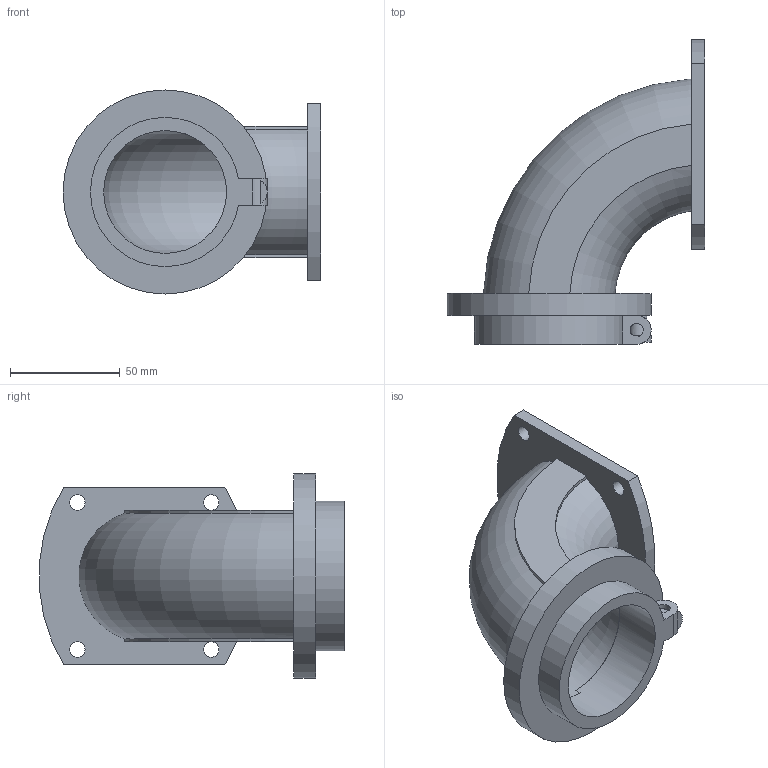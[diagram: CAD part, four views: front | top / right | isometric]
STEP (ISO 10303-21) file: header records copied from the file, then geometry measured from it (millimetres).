
FILE_DESCRIPTION( ( 'STEP AP214' ), '1' );
FILE_NAME( 'e:/temp/worker_12/temp/exporttempdir_1748_251_WMfOc/format_0/TWOC_IP55-56B.stp', '2021-04-13T15:16:38', ( 'License CC BY-ND 4.0' ), ( 'CADENAS' ), ' ', 'PARTsolutions', ' ' );
FILE_SCHEMA( ( 'AUTOMOTIVE_DESIGN { 1 0 10303 214 1 1 1 1 }' ) );
Length unit declared in the file: millimetre
Products named in the file (1): _TWOC_IP55-56B
Bounding box: 117.5 x 138.96 x 93 mm (x, y, z)
Surface area: 68733.9 mm2 (no closed solid volume)
Topology: 0 solids, 1 shells, 43 faces, 110 edges, 73 vertices
Faces by surface type: cylinder 23, plane 17, torus 3
Full cylindrical faces by diameter (mm): 7 x4, 56 x1, 93 x1
Entity records: 2083 total; most frequent: CARTESIAN_POINT 711, DIRECTION 209, ORIENTED_EDGE 194, EDGE_CURVE 97, AXIS2_PLACEMENT_3D 85, VERTEX_POINT 69, EDGE_LOOP 66, FACE_OUTER_BOUND 50
